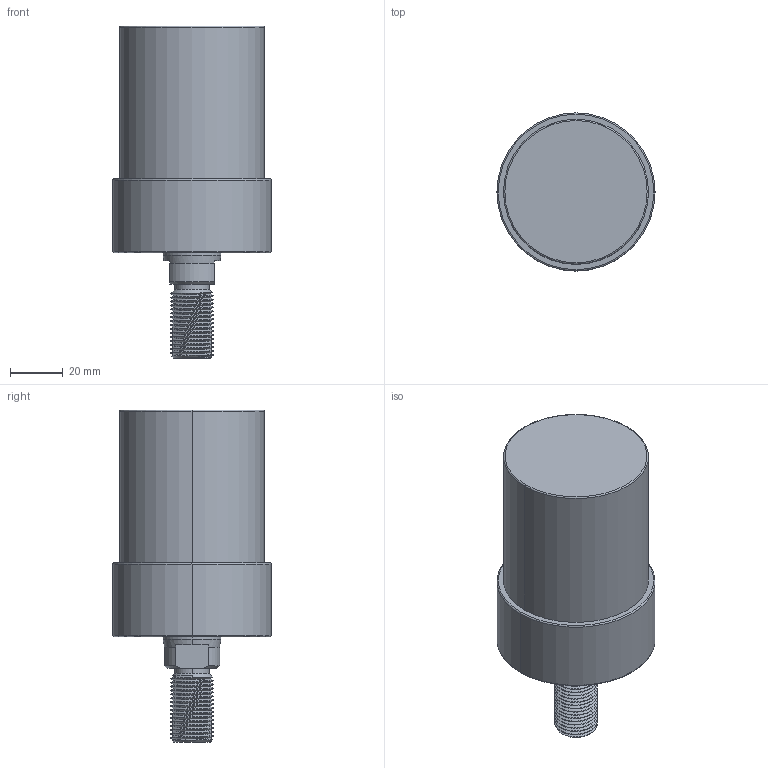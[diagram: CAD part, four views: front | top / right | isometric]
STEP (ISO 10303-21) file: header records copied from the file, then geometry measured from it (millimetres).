
FILE_DESCRIPTION (( 'STEP AP203' ), '1' );
FILE_NAME ('CLLU-055GT-045.STEP', '2020-01-16T00:39:22', ( '' ), ( '' ), 'SwSTEP 2.0', 'SolidWorks 2015', '' );
FILE_SCHEMA (( 'CONFIG_CONTROL_DESIGN' ));
Length unit declared in the file: millimetre
Products named in the file (1): CLLU-055GT-045
Bounding box: 60 x 60 x 126 mm (x, y, z)
Volume: 224242.3 mm3; surface area: 25004 mm2
Topology: 1 solids, 1 shells, 101 faces, 253 edges, 155 vertices
Faces by surface type: cylinder 55, cone 26, plane 12, torus 6, bspline 2
Entity records: 4859 total; most frequent: CARTESIAN_POINT 2589, ORIENTED_EDGE 490, DIRECTION 438, EDGE_CURVE 245, AXIS2_PLACEMENT_3D 176, VERTEX_POINT 155, EDGE_LOOP 110, ADVANCED_FACE 101
